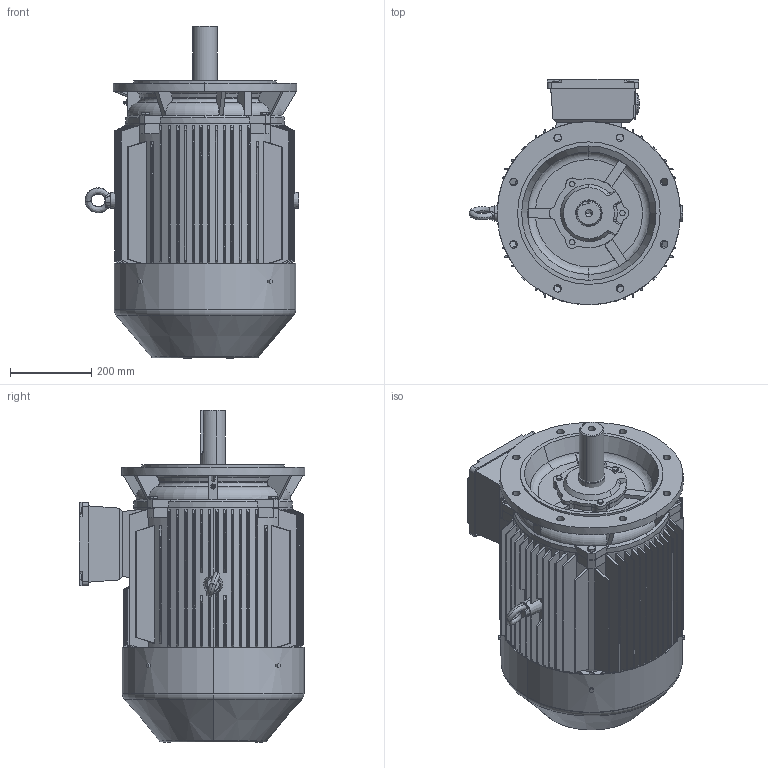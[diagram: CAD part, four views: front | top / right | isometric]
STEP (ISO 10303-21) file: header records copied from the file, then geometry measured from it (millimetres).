
FILE_DESCRIPTION (( 'STEP AP203' ), '1' );
FILE_NAME ('TE3-225S-4,8 B5.STEP', '2019-12-23T02:03:59', ( '微软用户' ), ( '微软中国' ), 'SwSTEP 2.0', 'SolidWorks 2012', '' );
FILE_SCHEMA (( 'CONFIG_CONTROL_DESIGN' ));
Length unit declared in the file: millimetre
Products named in the file (14): TE3-225S-4,8 B5; eyebolts gb_GB_FASTENER_SCREWS_FRS M16-N; 蚐戚; Y2-200~225 P24諉盄碟; hexagon head bolts-full thread gb_GB_FASTENER_BOLT_STBAB A M8X16-N; 8EJ.353.10054GX200~225P24諉盄碟裔; 8EJ.354.594Y2-200~225P24諉盄碟釱; YX3-225 瑞欶; YE3-225-4,6,8（轴伸）; hex head bolts-full thread grade c gb_GB_FASTENER_BOLT_HHBFTC M12X25-N; hex head bolts-full thread grade c gb_GB_FASTENER_BOLT_HHBFTC M8X25-N; Y2-225-4,6,8轴承外盖（轴伸端）; Y2-225-4,6,8芧埽傷裔017.00082; Y2-225S V1儂釱
Assembly tree (21 placements, depth 3):
  TE3-225S-4,8 B5
    Y2-225S V1儂釱
    Y2-225-4,6,8芧埽傷裔017.00082
    Y2-225-4,6,8轴承外盖（轴伸端）
    hex head bolts-full thread grade c gb_GB_FASTENER_BOLT_HHBFTC M8X25-N  x3
    hex head bolts-full thread grade c gb_GB_FASTENER_BOLT_HHBFTC M12X25-N  x4
    YE3-225-4,6,8（轴伸）
    YX3-225 瑞欶
    Y2-200~225 P24諉盄碟
      8EJ.354.594Y2-200~225P24諉盄碟釱
      8EJ.353.10054GX200~225P24諉盄碟裔
      hexagon head bolts-full thread gb_GB_FASTENER_BOLT_STBAB A M8X16-N  x4
    蚐戚
    eyebolts gb_GB_FASTENER_SCREWS_FRS M16-N
Bounding box: 525.2 x 554 x 815 mm (x, y, z)
Volume: 58466143.1 mm3; surface area: 3653588 mm2
Topology: 21 solids, 21 shells, 2894 faces, 7140 edges, 4681 vertices
Faces by surface type: plane 2082, cylinder 357, cone 238, bspline 130, torus 81, sphere 6
Entity records: 95307 total; most frequent: CARTESIAN_POINT 30464, ORIENTED_EDGE 13406, DIRECTION 11824, EDGE_CURVE 6703, LINE 4950, VECTOR 4950, VERTEX_POINT 4418, AXIS2_PLACEMENT_3D 3437
